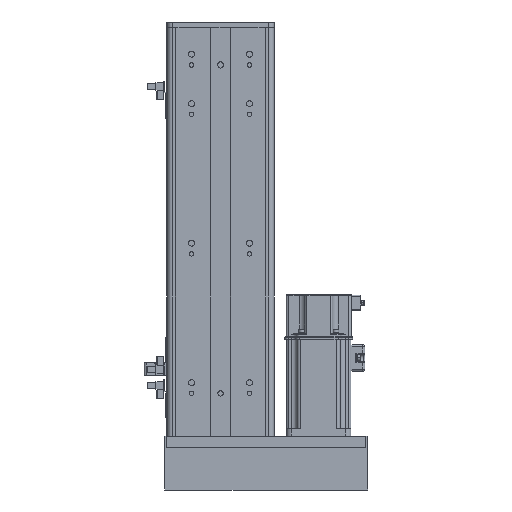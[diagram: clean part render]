
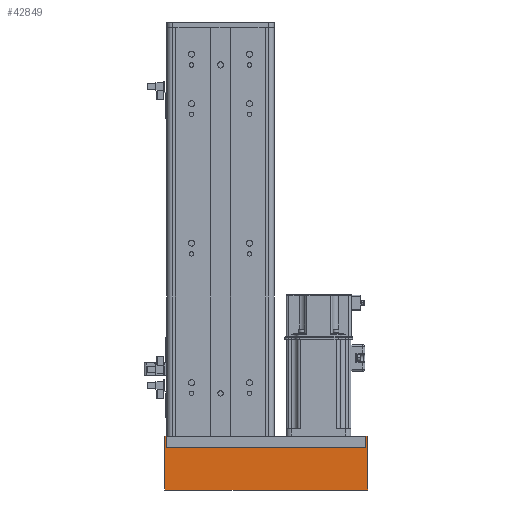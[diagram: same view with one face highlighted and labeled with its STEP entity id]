
A CAD part, front view. The second image highlights one B-rep face of the part: STEP entity #42849.
In plain terms, the highlighted planar face has unit normal (0, -1, 0).
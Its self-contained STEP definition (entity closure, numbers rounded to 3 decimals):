
#989 = CARTESIAN_POINT ( 'NONE',  ( -92.8, -35.5, 50. ) ) ;
#1010 = CARTESIAN_POINT ( 'NONE',  ( -92.8, -35.5, 0. ) ) ;
#1587 = EDGE_CURVE ( 'NONE', #15210, #24343, #27611, .T. ) ;
#3293 = ORIENTED_EDGE ( 'NONE', *, *, #43513, .T. ) ;
#3511 = VERTEX_POINT ( 'NONE', #23947 ) ;
#4785 = AXIS2_PLACEMENT_3D ( 'NONE', #22615, #58519, #43375 ) ;
#6458 = LINE ( 'NONE', #39993, #32877 ) ;
#7017 = DIRECTION ( 'NONE',  ( 0., 0., 1. ) ) ;
#7559 = CARTESIAN_POINT ( 'NONE',  ( -94.4, -35.5, 50. ) ) ;
#8061 = CARTESIAN_POINT ( 'NONE',  ( 94.6, -35.5, 0. ) ) ;
#8479 = LINE ( 'NONE', #989, #61950 ) ;
#8543 = LINE ( 'NONE', #56057, #52967 ) ;
#8598 = ORIENTED_EDGE ( 'NONE', *, *, #65828, .F. ) ;
#10259 = EDGE_CURVE ( 'NONE', #10624, #32830, #8479, .T. ) ;
#10624 = VERTEX_POINT ( 'NONE', #7559 ) ;
#11133 = VECTOR ( 'NONE', #19960, 1000. ) ;
#12264 = EDGE_CURVE ( 'NONE', #24343, #3511, #34989, .T. ) ;
#14573 = CARTESIAN_POINT ( 'NONE',  ( 94.6, -35.5, 50. ) ) ;
#15210 = VERTEX_POINT ( 'NONE', #8061 ) ;
#15984 = ORIENTED_EDGE ( 'NONE', *, *, #51366, .F. ) ;
#16828 = VERTEX_POINT ( 'NONE', #17483 ) ;
#17483 = CARTESIAN_POINT ( 'NONE',  ( -92.8, -35.5, 10. ) ) ;
#19069 = ORIENTED_EDGE ( 'NONE', *, *, #1587, .F. ) ;
#19960 = DIRECTION ( 'NONE',  ( -1., 0., 0. ) ) ;
#22615 = CARTESIAN_POINT ( 'NONE',  ( -92.8, -35.5, 48.4 ) ) ;
#23425 = DIRECTION ( 'NONE',  ( 0., 0., 1. ) ) ;
#23529 = VECTOR ( 'NONE', #7017, 1000. ) ;
#23947 = CARTESIAN_POINT ( 'NONE',  ( 93., -35.5, 10. ) ) ;
#24343 = VERTEX_POINT ( 'NONE', #39604 ) ;
#24493 = CARTESIAN_POINT ( 'NONE',  ( -92.8, -35.5, 10. ) ) ;
#27611 = LINE ( 'NONE', #46185, #11133 ) ;
#29206 = EDGE_LOOP ( 'NONE', ( #42290, #19069, #3293, #48524, #46454, #8598, #42738, #15984 ) ) ;
#30265 = VECTOR ( 'NONE', #61290, 1000. ) ;
#30520 = DIRECTION ( 'NONE',  ( -1., 0., 0. ) ) ;
#32830 = VERTEX_POINT ( 'NONE', #14573 ) ;
#32877 = VECTOR ( 'NONE', #49628, 1000. ) ;
#33851 = CARTESIAN_POINT ( 'NONE',  ( 93., -35.5, 48.4 ) ) ;
#34989 = LINE ( 'NONE', #33851, #38260 ) ;
#37862 = PLANE ( 'NONE',  #4785 ) ;
#38260 = VECTOR ( 'NONE', #23425, 1000. ) ;
#39006 = CARTESIAN_POINT ( 'NONE',  ( 94.6, -35.5, 48.4 ) ) ;
#39604 = CARTESIAN_POINT ( 'NONE',  ( 93., -35.5, 0. ) ) ;
#39993 = CARTESIAN_POINT ( 'NONE',  ( -92.8, -35.5, 48.4 ) ) ;
#42290 = ORIENTED_EDGE ( 'NONE', *, *, #12264, .F. ) ;
#42738 = ORIENTED_EDGE ( 'NONE', *, *, #50341, .F. ) ;
#42849 = ADVANCED_FACE ( 'NONE', ( #51661 ), #37862, .F. ) ;
#43375 = DIRECTION ( 'NONE',  ( 0., 0., 1. ) ) ;
#43513 = EDGE_CURVE ( 'NONE', #15210, #32830, #58110, .T. ) ;
#44960 = EDGE_CURVE ( 'NONE', #62424, #10624, #8543, .T. ) ;
#46185 = CARTESIAN_POINT ( 'NONE',  ( -92.8, -35.5, 0. ) ) ;
#46454 = ORIENTED_EDGE ( 'NONE', *, *, #44960, .F. ) ;
#47051 = CARTESIAN_POINT ( 'NONE',  ( -92.8, -35.5, 0. ) ) ;
#47235 = VECTOR ( 'NONE', #30520, 1000. ) ;
#48350 = VERTEX_POINT ( 'NONE', #1010 ) ;
#48524 = ORIENTED_EDGE ( 'NONE', *, *, #10259, .F. ) ;
#49628 = DIRECTION ( 'NONE',  ( 0., 0., -1. ) ) ;
#50341 = EDGE_CURVE ( 'NONE', #16828, #48350, #6458, .T. ) ;
#51366 = EDGE_CURVE ( 'NONE', #3511, #16828, #54125, .T. ) ;
#51661 = FACE_OUTER_BOUND ( 'NONE', #29206, .T. ) ;
#52967 = VECTOR ( 'NONE', #66865, 1000. ) ;
#54125 = LINE ( 'NONE', #24493, #30265 ) ;
#55326 = CARTESIAN_POINT ( 'NONE',  ( -94.4, -35.5, 0. ) ) ;
#56057 = CARTESIAN_POINT ( 'NONE',  ( -94.4, -35.5, 48.4 ) ) ;
#58110 = LINE ( 'NONE', #39006, #23529 ) ;
#58519 = DIRECTION ( 'NONE',  ( 0., 1., 0. ) ) ;
#61220 = LINE ( 'NONE', #47051, #47235 ) ;
#61290 = DIRECTION ( 'NONE',  ( -1., 0., 0. ) ) ;
#61950 = VECTOR ( 'NONE', #64639, 1000. ) ;
#62424 = VERTEX_POINT ( 'NONE', #55326 ) ;
#64639 = DIRECTION ( 'NONE',  ( 1., 0., 0. ) ) ;
#65828 = EDGE_CURVE ( 'NONE', #48350, #62424, #61220, .T. ) ;
#66865 = DIRECTION ( 'NONE',  ( 0., 0., 1. ) ) ;
